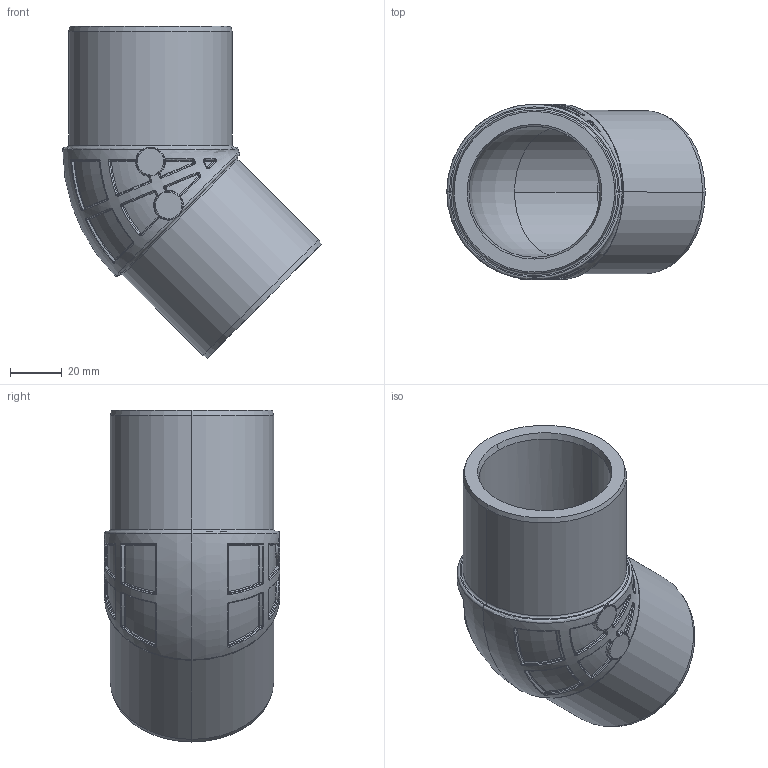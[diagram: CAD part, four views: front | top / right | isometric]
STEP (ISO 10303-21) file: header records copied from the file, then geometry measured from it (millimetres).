
FILE_DESCRIPTION (( 'STEP AP214' ), '1' );
FILE_NAME ('KP_4-63EC.STEP', '2012-12-14T10:59:00', ( '' ), ( '' ), 'SwSTEP 2.0', 'SolidWorks 2012', '' );
FILE_SCHEMA (( 'AUTOMOTIVE_DESIGN' ));
Length unit declared in the file: millimetre
Products named in the file (1): KP_4-63EC
Bounding box: 100.26 x 68 x 128.8 mm (x, y, z)
Volume: 149817.9 mm3; surface area: 47808.6 mm2
Topology: 1 solids, 1 shells, 495 faces, 1140 edges, 613 vertices
Faces by surface type: bspline 214, cylinder 92, torus 77, sphere 58, plane 38, cone 16
Entity records: 18568 total; most frequent: CARTESIAN_POINT 9181, ORIENTED_EDGE 2148, DIRECTION 1731, EDGE_CURVE 1074, AXIS2_PLACEMENT_3D 802, VERTEX_POINT 593, CIRCLE 520, EDGE_LOOP 509
